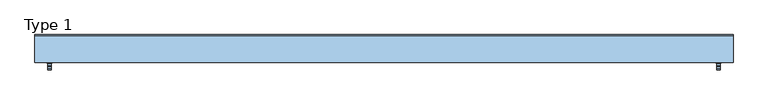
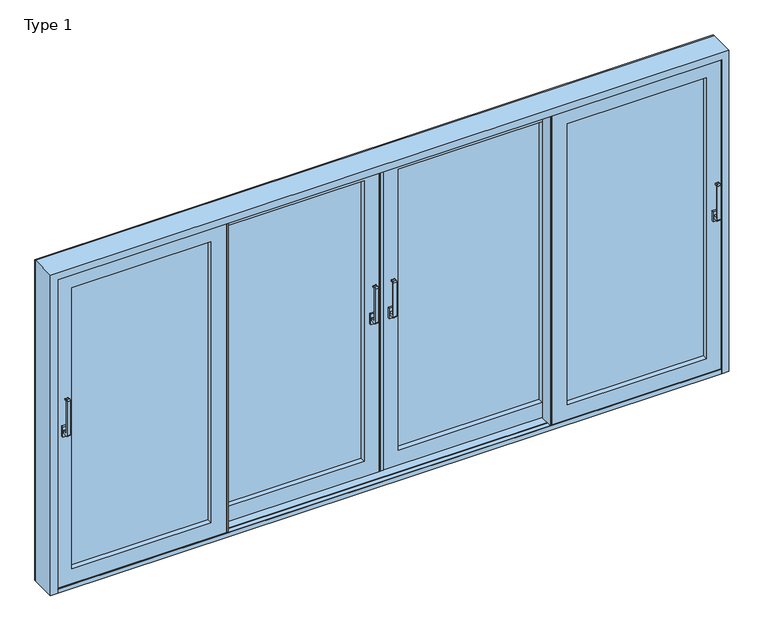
"""IFC4 building model written with IfcOpenShell, lengths in millimetres: window geometry, ETEM_ES70_Quadruple_Lift_Sliding_FR : Type 1."""

from ifc_helpers import new_model, si_unit, point, frame, frame_2d, origin, place, context, project, spatial, polyline, circle_curve, trimmed, segment, composite_curve, outline, extrude, faceted_brep, source, transform, mapped, element, save


def type_1_2b06f44e(model_context):
    return source(origin(), model_context, "Body", "SolidModel", [
        extrude(outline(composite_curve([segment(polyline([(-51.4992454, 1090.0), (-83.0729301, 1090.0)]), True, "CONTINUOUS"), segment(trimmed(circle_curve(frame_2d((-83.0729301, 1098.4263152)), 8.4263152), [point((-83.0729301, 1090.0))], [point((-91.4992454, 1098.4263152))], False, "CARTESIAN"), True, "CONTINUOUS"), segment(polyline([(-91.4992454, 1098.4263152), (-91.4992454, 1331.5736848)]), True, "CONTINUOUS"), segment(trimmed(circle_curve(frame_2d((-83.0729301, 1331.5736848)), 8.4263152), [point((-91.4992454, 1331.5736848))], [point((-83.0729301, 1340.0))], False, "CARTESIAN"), True, "CONTINUOUS"), segment(polyline([(-83.0729301, 1340.0), (-71.4992454, 1340.0)]), True, "CONTINUOUS"), segment(trimmed(circle_curve(frame_2d((-71.4992454, 1335.0)), 5.0), [point((-71.4992454, 1340.0))], [point((-71.4992454, 1330.0))], False, "CARTESIAN"), True, "CONTINUOUS"), segment(polyline([(-71.4992454, 1330.0), (-77.9637115, 1330.0)]), True, "CONTINUOUS"), segment(trimmed(circle_curve(frame_2d((-77.9637115, 1326.4644661)), 3.5355339), [point((-77.9637115, 1330.0))], [point((-81.4992454, 1326.4644661))], True, "CARTESIAN"), True, "CONTINUOUS"), segment(polyline([(-81.4992454, 1326.4644661), (-81.4992454, 1113.5355339)]), True, "CONTINUOUS"), segment(trimmed(circle_curve(frame_2d((-77.9637115, 1113.5355339)), 3.5355339), [point((-81.4992454, 1113.5355339))], [point((-77.9637115, 1110.0))], True, "CARTESIAN"), True, "CONTINUOUS"), segment(polyline([(-77.9637115, 1110.0), (-51.4992454, 1110.0), (-51.4992454, 1090.0)]), True, "CONTINUOUS")], self_intersect=False)), frame((2098.5, 0.0, 0.0), z_axis=(1.0, 0.0, 0.0), x_axis=(0.0, 1.0, 0.0)), (0.0, 0.0, 1.0), 20.0),
        extrude(outline(polyline([(2093.5, -51.4992454), (2093.5, -38.4992454), (2123.5, -38.4992454), (2123.5, -51.4992454), (2093.5, -51.4992454)])), frame((0.0, 0.0, 1065.0), z_axis=(0.0, 0.0, 1.0), x_axis=(1.0, 0.0, 0.0)), (0.0, 0.0, 1.0), 70.0),
        extrude(outline(composite_curve([segment(polyline([(-51.4992454, 1090.0), (-83.0729301, 1090.0)]), True, "CONTINUOUS"), segment(trimmed(circle_curve(frame_2d((-83.0729301, 1098.4263152)), 8.4263152), [point((-83.0729301, 1090.0))], [point((-91.4992454, 1098.4263152))], False, "CARTESIAN"), True, "CONTINUOUS"), segment(polyline([(-91.4992454, 1098.4263152), (-91.4992454, 1331.5736848)]), True, "CONTINUOUS"), segment(trimmed(circle_curve(frame_2d((-83.0729301, 1331.5736848)), 8.4263152), [point((-91.4992454, 1331.5736848))], [point((-83.0729301, 1340.0))], False, "CARTESIAN"), True, "CONTINUOUS"), segment(polyline([(-83.0729301, 1340.0), (-71.4992454, 1340.0)]), True, "CONTINUOUS"), segment(trimmed(circle_curve(frame_2d((-71.4992454, 1335.0)), 5.0), [point((-71.4992454, 1340.0))], [point((-71.4992454, 1330.0))], False, "CARTESIAN"), True, "CONTINUOUS"), segment(polyline([(-71.4992454, 1330.0), (-77.9637115, 1330.0)]), True, "CONTINUOUS"), segment(trimmed(circle_curve(frame_2d((-77.9637115, 1326.4644661)), 3.5355339), [point((-77.9637115, 1330.0))], [point((-81.4992454, 1326.4644661))], True, "CARTESIAN"), True, "CONTINUOUS"), segment(polyline([(-81.4992454, 1326.4644661), (-81.4992454, 1113.5355339)]), True, "CONTINUOUS"), segment(trimmed(circle_curve(frame_2d((-77.9637115, 1113.5355339)), 3.5355339), [point((-81.4992454, 1113.5355339))], [point((-77.9637115, 1110.0))], True, "CARTESIAN"), True, "CONTINUOUS"), segment(polyline([(-77.9637115, 1110.0), (-51.4992454, 1110.0), (-51.4992454, 1090.0)]), True, "CONTINUOUS")], self_intersect=False)), frame((-2118.5, 0.0, 0.0), z_axis=(1.0, 0.0, 0.0), x_axis=(0.0, 1.0, 0.0)), (0.0, 0.0, 1.0), 20.0),
        extrude(outline(polyline([(-2123.5, -51.4992454), (-2123.5, -38.4992454), (-2093.5, -38.4992454), (-2093.5, -51.4992454), (-2123.5, -51.4992454)])), frame((0.0, 0.0, 1065.0), z_axis=(0.0, 0.0, 1.0), x_axis=(1.0, 0.0, 0.0)), (0.0, 0.0, 1.0), 70.0),
        extrude(outline(composite_curve([segment(polyline([(38.5, 1090.0), (6.9263152, 1090.0)]), True, "CONTINUOUS"), segment(trimmed(circle_curve(frame_2d((6.9263152, 1098.4263152)), 8.4263152), [point((6.9263152, 1090.0))], [point((-1.5, 1098.4263152))], False, "CARTESIAN"), True, "CONTINUOUS"), segment(polyline([(-1.5, 1098.4263152), (-1.5, 1331.5736848)]), True, "CONTINUOUS"), segment(trimmed(circle_curve(frame_2d((6.9263152, 1331.5736848)), 8.4263152), [point((-1.5, 1331.5736848))], [point((6.9263152, 1340.0))], False, "CARTESIAN"), True, "CONTINUOUS"), segment(polyline([(6.9263152, 1340.0), (18.5, 1340.0)]), True, "CONTINUOUS"), segment(trimmed(circle_curve(frame_2d((18.5, 1335.0)), 5.0), [point((18.5, 1340.0))], [point((18.5, 1330.0))], False, "CARTESIAN"), True, "CONTINUOUS"), segment(polyline([(18.5, 1330.0), (12.0355339, 1330.0)]), True, "CONTINUOUS"), segment(trimmed(circle_curve(frame_2d((12.0355339, 1326.4644661)), 3.5355339), [point((12.0355339, 1330.0))], [point((8.5, 1326.4644661))], True, "CARTESIAN"), True, "CONTINUOUS"), segment(polyline([(8.5, 1326.4644661), (8.5, 1113.5355339)]), True, "CONTINUOUS"), segment(trimmed(circle_curve(frame_2d((12.0355339, 1113.5355339)), 3.5355339), [point((8.5, 1113.5355339))], [point((12.0355339, 1110.0))], True, "CARTESIAN"), True, "CONTINUOUS"), segment(polyline([(12.0355339, 1110.0), (38.5, 1110.0), (38.5, 1090.0)]), True, "CONTINUOUS")], self_intersect=False)), frame((-69.4936823, 0.0, 0.0), z_axis=(1.0, 0.0, 0.0), x_axis=(0.0, 1.0, 0.0)), (0.0, 0.0, 1.0), 20.0),
        extrude(outline(polyline([(-74.4936823, 38.5), (-74.4936823, 51.5), (-44.4936823, 51.5), (-44.4936823, 38.5), (-74.4936823, 38.5)])), frame((0.0, 0.0, 1065.0), z_axis=(0.0, 0.0, 1.0), x_axis=(1.0, 0.0, 0.0)), (0.0, 0.0, 1.0), 70.0),
        extrude(outline(composite_curve([segment(polyline([(38.5, 1090.0), (6.9263152, 1090.0)]), True, "CONTINUOUS"), segment(trimmed(circle_curve(frame_2d((6.9263152, 1098.4263152)), 8.4263152), [point((6.9263152, 1090.0))], [point((-1.5, 1098.4263152))], False, "CARTESIAN"), True, "CONTINUOUS"), segment(polyline([(-1.5, 1098.4263152), (-1.5, 1331.5736848)]), True, "CONTINUOUS"), segment(trimmed(circle_curve(frame_2d((6.9263152, 1331.5736848)), 8.4263152), [point((-1.5, 1331.5736848))], [point((6.9263152, 1340.0))], False, "CARTESIAN"), True, "CONTINUOUS"), segment(polyline([(6.9263152, 1340.0), (18.5, 1340.0)]), True, "CONTINUOUS"), segment(trimmed(circle_curve(frame_2d((18.5, 1335.0)), 5.0), [point((18.5, 1340.0))], [point((18.5, 1330.0))], False, "CARTESIAN"), True, "CONTINUOUS"), segment(polyline([(18.5, 1330.0), (12.0355339, 1330.0)]), True, "CONTINUOUS"), segment(trimmed(circle_curve(frame_2d((12.0355339, 1326.4644661)), 3.5355339), [point((12.0355339, 1330.0))], [point((8.5, 1326.4644661))], True, "CARTESIAN"), True, "CONTINUOUS"), segment(polyline([(8.5, 1326.4644661), (8.5, 1113.5355339)]), True, "CONTINUOUS"), segment(trimmed(circle_curve(frame_2d((12.0355339, 1113.5355339)), 3.5355339), [point((8.5, 1113.5355339))], [point((12.0355339, 1110.0))], True, "CARTESIAN"), True, "CONTINUOUS"), segment(polyline([(12.0355339, 1110.0), (38.5, 1110.0), (38.5, 1090.0)]), True, "CONTINUOUS")], self_intersect=False)), frame((49.4931787, 0.0, 0.0), z_axis=(1.0, 0.0, 0.0), x_axis=(0.0, 1.0, 0.0)), (0.0, 0.0, 1.0), 20.0),
        extrude(outline(polyline([(74.4931787, 38.5), (44.4931787, 38.5), (44.4931787, 51.5), (74.4931787, 51.5), (74.4931787, 38.5)])), frame((0.0, 0.0, 1065.0), z_axis=(0.0, 0.0, 1.0), x_axis=(1.0, 0.0, 0.0)), (0.0, 0.0, 1.0), 70.0),
        faceted_brep([(2200.0, -45.1, 2200.0), (2200.0, -45.1, 0.0), (2200.0, 122.9, 0.0), (2200.0, 122.9, 2200.0), (2183.7, 91.0, 2183.7), (2183.7, 122.9, 2183.7), (2183.7, 122.9, 0.0), (2183.7, 91.0, 0.0), (2160.0, 105.0, 2160.0), (2160.0, 91.0, 2160.0), (2160.0, 91.0, 0.0), (2160.0, 105.0, 0.0), (2152.0, 82.0, 2152.0), (2152.0, 105.0, 2152.0), (2152.0, 105.0, 0.0), (2152.0, 82.0, 0.0), (2183.7, 1.0, 2183.7), (2183.7, 82.0, 2183.7), (2183.7, 82.0, 0.0), (2183.7, 1.0, 0.0), (2152.0, -22.0, 2152.0), (2152.0, 1.0, 2152.0), (2152.0, 1.0, 0.0), (2152.0, -22.0, 0.0), (2160.0, -8.0, 2160.0), (2160.0, -22.0, 2160.0), (2160.0, -22.0, 0.0), (2160.0, -8.0, 0.0), (2183.7, -41.3, 2183.7), (2183.7, -8.0, 2183.7), (2183.7, -8.0, 0.0), (2183.7, -41.3, 0.0), (2152.0, -45.1, 2152.0), (2152.0, -41.3, 2152.0), (2152.0, -41.3, 0.0), (2152.0, -45.1, 0.0), (-2200.0, -45.1, 0.0), (-2200.0, -45.1, 2200.0), (-2200.0, 122.9, 2200.0), (-2200.0, 122.9, 0.0), (-2183.7, 91.0, 0.0), (-2183.7, 122.9, 0.0), (-2183.7, 122.9, 2183.7), (-2183.7, 91.0, 2183.7), (-2160.0, 105.0, 0.0), (-2160.0, 91.0, 0.0), (-2160.0, 91.0, 2160.0), (-2160.0, 105.0, 2160.0), (-2152.0, 82.0, 0.0), (-2152.0, 105.0, 0.0), (-2152.0, 105.0, 2152.0), (-2152.0, 82.0, 2152.0), (-2183.7, 1.0, 0.0), (-2183.7, 82.0, 0.0), (-2183.7, 82.0, 2183.7), (-2183.7, 1.0, 2183.7), (-2152.0, -22.0, 0.0), (-2152.0, 1.0, 0.0), (-2152.0, 1.0, 2152.0), (-2152.0, -22.0, 2152.0), (-2160.0, -8.0, 0.0), (-2160.0, -22.0, 0.0), (-2160.0, -22.0, 2160.0), (-2160.0, -8.0, 2160.0), (-2183.7, -41.3, 0.0), (-2183.7, -8.0, 0.0), (-2183.7, -8.0, 2183.7), (-2183.7, -41.3, 2183.7), (-2152.0, -45.1, 0.0), (-2152.0, -41.3, 0.0), (-2152.0, -41.3, 2152.0), (-2152.0, -45.1, 2152.0)], [[[0, 1, 2, 3]], [[4, 5, 6, 7]], [[8, 9, 10, 11]], [[12, 13, 14, 15]], [[16, 17, 18, 19]], [[20, 21, 22, 23]], [[24, 25, 26, 27]], [[28, 29, 30, 31]], [[32, 33, 34, 35]], [[36, 37, 38, 39]], [[40, 41, 42, 43]], [[44, 45, 46, 47]], [[48, 49, 50, 51]], [[52, 53, 54, 55]], [[56, 57, 58, 59]], [[60, 61, 62, 63]], [[64, 65, 66, 67]], [[68, 69, 70, 71]], [[38, 37, 0, 3]], [[43, 42, 5, 4]], [[47, 46, 9, 8]], [[51, 50, 13, 12]], [[55, 54, 17, 16]], [[59, 58, 21, 20]], [[63, 62, 25, 24]], [[67, 66, 29, 28]], [[71, 70, 33, 32]], [[36, 39, 41, 40, 45, 44, 49, 48, 53, 52, 57, 56, 61, 60, 65, 64, 69, 68]], [[41, 39, 38, 3, 2, 6, 5, 42]], [[45, 40, 43, 4, 7, 10, 9, 46]], [[49, 44, 47, 8, 11, 14, 13, 50]], [[53, 48, 51, 12, 15, 18, 17, 54]], [[57, 52, 55, 16, 19, 22, 21, 58]], [[61, 56, 59, 20, 23, 26, 25, 62]], [[65, 60, 63, 24, 27, 30, 29, 66]], [[69, 64, 67, 28, 31, 34, 33, 70]], [[36, 68, 71, 32, 35, 1, 0, 37]], [[2, 1, 35, 34, 31, 30, 27, 26, 23, 22, 19, 18, 15, 14, 11, 10, 7, 6]]]),
        faceted_brep([(1146.5, 63.9, 2161.0), (1146.5, 51.5, 2161.0), (1146.5, 51.5, 30.0), (1146.5, 63.9, 30.0), (7.0252518, 51.5, 2161.0), (7.0252518, 51.5, 30.0), (1043.5, 51.5, 133.0), (110.0252518, 51.5, 133.0), (110.0252518, 51.5, 2058.0), (1043.5, 51.5, 2058.0), (7.0252518, 63.9, 30.0), (7.0252518, 63.9, 2161.0), (1115.4, 63.9, 2129.9), (38.1252518, 63.9, 2129.9), (38.1252518, 63.9, 61.1), (1115.4, 63.9, 61.1), (1115.4, 109.1, 2129.9), (1115.4, 109.1, 61.1), (38.1252518, 109.1, 61.1), (1146.5, 109.1, 2161.0), (7.0252518, 109.1, 2161.0), (7.0252518, 109.1, 30.0), (1146.5, 109.1, 30.0), (38.1252518, 109.1, 2129.9), (1146.5, 121.5, 2161.0), (1146.5, 121.5, 30.0), (7.0252518, 121.5, 30.0), (7.0252518, 121.5, 2161.0), (1043.5, 121.5, 2058.0), (110.0252518, 121.5, 2058.0), (110.0252518, 121.5, 133.0), (1043.5, 121.5, 133.0)], [[[0, 1, 2, 3]], [[1, 4, 5, 2], [6, 7, 8, 9]], [[3, 2, 5, 10]], [[3, 10, 11, 0], [12, 13, 14, 15]], [[16, 12, 15, 17]], [[17, 15, 14, 18]], [[19, 20, 21, 22], [17, 18, 23, 16]], [[24, 19, 22, 25]], [[25, 22, 21, 26]], [[25, 26, 27, 24], [28, 29, 30, 31]], [[9, 28, 31, 6]], [[6, 31, 30, 7]], [[10, 5, 4, 11]], [[18, 14, 13, 23]], [[26, 21, 20, 27]], [[7, 30, 29, 8]], [[11, 4, 1, 0]], [[23, 13, 12, 16]], [[27, 20, 19, 24]], [[8, 29, 28, 9]]]),
        extrude(outline(polyline([(1156.5, 39.7), (1146.5, 39.7), (1146.5, 121.5), (1156.5, 121.5), (1156.5, 39.7)])), frame((0.0, 0.0, 30.0), z_axis=(0.0, 0.0, 1.0), x_axis=(1.0, 0.0, 0.0)), (0.0, 0.0, 1.0), 2131.0),
        extrude(outline(polyline([(1043.5, 43.3007546), (1053.5, 43.3007546), (1053.5, -38.4992454), (1043.5, -38.4992454), (1043.5, 43.3007546)])), frame((0.0, 0.0, 30.0), z_axis=(0.0, 0.0, 1.0), x_axis=(1.0, 0.0, 0.0)), (0.0, 0.0, 1.0), 2131.0),
        extrude(outline(polyline([(109.9252518, 113.5022684), (1043.55, 113.5022684), (1043.55, 107.5022684), (109.9252518, 107.5022684), (109.9252518, 113.5022684)])), frame((0.0, 0.0, 133.0), z_axis=(0.0, 0.0, 1.0), x_axis=(1.0, 0.0, 0.0)), (0.0, 0.0, 1.0), 1925.0),
        extrude(outline(polyline([(1156.5, 23.5007591), (2058.0, 23.5007591), (2058.0, 17.5007591), (1156.5, 17.5007591), (1156.5, 23.5007591)])), frame((0.0, 0.0, 133.0), z_axis=(0.0, 0.0, 1.0), x_axis=(1.0, 0.0, 0.0)), (0.0, 0.0, 1.0), 1925.0),
        extrude(outline(polyline([(109.9252518, 91.5022684), (1043.55, 91.5022684), (1043.55, 85.5022684), (109.9252518, 85.5022684), (109.9252518, 91.5022684)])), frame((0.0, 0.0, 133.0), z_axis=(0.0, 0.0, 1.0), x_axis=(1.0, 0.0, 0.0)), (0.0, 0.0, 1.0), 1925.0),
        extrude(outline(polyline([(1156.5, 1.5007591), (2058.0, 1.5007591), (2058.0, -4.4992409), (1156.5, -4.4992409), (1156.5, 1.5007591)])), frame((0.0, 0.0, 133.0), z_axis=(0.0, 0.0, 1.0), x_axis=(1.0, 0.0, 0.0)), (0.0, 0.0, 1.0), 1925.0),
        faceted_brep([(-7.0252518, 63.9, 2161.0), (-7.0252518, 51.5, 2161.0), (-7.0252518, 51.5, 30.0), (-7.0252518, 63.9, 30.0), (-1146.5, 51.5, 2161.0), (-1146.5, 51.5, 30.0), (-110.0252518, 51.5, 133.0), (-1043.5, 51.5, 133.0), (-1043.5, 51.5, 2058.0), (-110.0252518, 51.5, 2058.0), (-1146.5, 63.9, 30.0), (-1146.5, 63.9, 2161.0), (-38.1252518, 63.9, 2129.9), (-1115.4, 63.9, 2129.9), (-1115.4, 63.9, 61.1), (-38.1252518, 63.9, 61.1), (-38.1252518, 109.1, 2129.9), (-38.1252518, 109.1, 61.1), (-1115.4, 109.1, 61.1), (-7.0252518, 109.1, 2161.0), (-1146.5, 109.1, 2161.0), (-1146.5, 109.1, 30.0), (-7.0252518, 109.1, 30.0), (-1115.4, 109.1, 2129.9), (-7.0252518, 121.5, 2161.0), (-7.0252518, 121.5, 30.0), (-1146.5, 121.5, 30.0), (-1146.5, 121.5, 2161.0), (-110.0252518, 121.5, 2058.0), (-1043.5, 121.5, 2058.0), (-1043.5, 121.5, 133.0), (-110.0252518, 121.5, 133.0)], [[[0, 1, 2, 3]], [[1, 4, 5, 2], [6, 7, 8, 9]], [[3, 2, 5, 10]], [[3, 10, 11, 0], [12, 13, 14, 15]], [[16, 12, 15, 17]], [[17, 15, 14, 18]], [[19, 20, 21, 22], [17, 18, 23, 16]], [[24, 19, 22, 25]], [[25, 22, 21, 26]], [[25, 26, 27, 24], [28, 29, 30, 31]], [[9, 28, 31, 6]], [[6, 31, 30, 7]], [[10, 5, 4, 11]], [[18, 14, 13, 23]], [[26, 21, 20, 27]], [[7, 30, 29, 8]], [[11, 4, 1, 0]], [[23, 13, 12, 16]], [[27, 20, 19, 24]], [[8, 29, 28, 9]]]),
        extrude(outline(polyline([(-1043.55, 113.5022684), (-109.9252518, 113.5022684), (-109.9252518, 107.5022684), (-1043.55, 107.5022684), (-1043.55, 113.5022684)])), frame((0.0, 0.0, 133.0), z_axis=(0.0, 0.0, 1.0), x_axis=(1.0, 0.0, 0.0)), (0.0, 0.0, 1.0), 1925.0),
        extrude(outline(polyline([(-1043.55, 91.5022684), (-109.9252518, 91.5022684), (-109.9252518, 85.5022684), (-1043.55, 85.5022684), (-1043.55, 91.5022684)])), frame((0.0, 0.0, 133.0), z_axis=(0.0, 0.0, 1.0), x_axis=(1.0, 0.0, 0.0)), (0.0, 0.0, 1.0), 1925.0),
        faceted_brep([(-1053.5, -26.0992454, 2161.0), (-1053.5, -38.4992454, 2161.0), (-1053.5, -38.4992454, 30.0), (-1053.5, -26.0992454, 30.0), (-2161.0, -38.4992454, 30.0), (-2161.0, -26.0992454, 30.0), (-2161.0, -38.4992454, 2161.0), (-2058.0250001, -38.4992454, 132.9749999), (-2058.0250001, -38.4992454, 2058.0250001), (-1156.4749999, -38.4992454, 2058.0250001), (-1156.4749999, -38.4992454, 132.9749999), (-2161.0, -26.0992454, 2161.0), (-1084.5749999, -26.0992454, 61.0749999), (-1084.5749999, -26.0992454, 2129.9250001), (-2129.9250001, -26.0992454, 2129.9250001), (-2129.9250001, -26.0992454, 61.0749999), (-1084.5749999, 19.1007546, 2129.9250001), (-1084.5749999, 19.1007546, 61.0749999), (-2129.9250001, 19.1007546, 61.0749999), (-2129.9250001, 19.1007546, 2129.9250001), (-1053.5, 19.1007546, 30.0), (-1053.5, 19.1007546, 2161.0), (-2161.0, 19.1007546, 2161.0), (-2161.0, 19.1007546, 30.0), (-1053.5, 31.5007546, 2161.0), (-1053.5, 31.5007546, 30.0), (-2161.0, 31.5007546, 30.0), (-2161.0, 31.5007546, 2161.0), (-1156.4749999, 31.5007546, 132.9749999), (-1156.4749999, 31.5007546, 2058.0250001), (-2058.0250001, 31.5007546, 2058.0250001), (-2058.0250001, 31.5007546, 132.9749999)], [[[0, 1, 2, 3]], [[3, 2, 4, 5]], [[2, 1, 6, 4], [7, 8, 9, 10]], [[5, 4, 6, 11]], [[5, 11, 0, 3], [12, 13, 14, 15]], [[16, 13, 12, 17]], [[17, 12, 15, 18]], [[18, 15, 14, 19]], [[20, 21, 22, 23], [18, 19, 16, 17]], [[24, 21, 20, 25]], [[25, 20, 23, 26]], [[26, 23, 22, 27]], [[26, 27, 24, 25], [28, 29, 30, 31]], [[9, 29, 28, 10]], [[10, 28, 31, 7]], [[7, 31, 30, 8]], [[11, 6, 1, 0]], [[19, 14, 13, 16]], [[27, 22, 21, 24]], [[8, 30, 29, 9]]]),
        extrude(outline(polyline([(-1043.5, 43.3007546), (-1043.5, -38.4992454), (-1053.5, -38.4992454), (-1053.5, 43.3007546), (-1043.5, 43.3007546)])), frame((0.0, 0.0, 30.0), z_axis=(0.0, 0.0, 1.0), x_axis=(1.0, 0.0, 0.0)), (0.0, 0.0, 1.0), 2131.0),
        extrude(outline(polyline([(-1156.45, 39.7), (-1156.45, 121.5), (-1146.55, 121.5), (-1146.55, 39.7), (-1156.45, 39.7)])), frame((0.0, 0.0, 30.0), z_axis=(0.0, 0.0, 1.0), x_axis=(1.0, 0.0, 0.0)), (0.0, 0.0, 1.0), 2131.0),
        extrude(outline(polyline([(-2058.0, 23.5007591), (-1156.5, 23.5007591), (-1156.5, 17.5007591), (-2058.0, 17.5007591), (-2058.0, 23.5007591)])), frame((0.0, 0.0, 132.9749999), z_axis=(0.0, 0.0, 1.0), x_axis=(1.0, 0.0, 0.0)), (0.0, 0.0, 1.0), 1925.0500002),
        extrude(outline(polyline([(-2058.0, 1.5007591), (-1156.5, 1.5007591), (-1156.5, -4.4992409), (-2058.0, -4.4992409), (-2058.0, 1.5007591)])), frame((0.0, 0.0, 132.9749999), z_axis=(0.0, 0.0, 1.0), x_axis=(1.0, 0.0, 0.0)), (0.0, 0.0, 1.0), 1925.0500002),
        extrude(outline(polyline([(7.0252518, 67.9992454), (7.0252518, 51.5), (12.3472419, 51.5), (12.3472419, 49.7022316), (-12.6492101, 49.7022316), (-12.6492101, 51.5), (-7.0252518, 51.5), (-7.0252518, 121.5), (-12.6492101, 121.5), (-12.6492101, 123.2992777), (12.3472419, 123.2992777), (12.3472419, 121.5), (7.0252518, 121.5), (7.0252518, 105.0007546), (16.0497482, 105.0007546), (16.0497482, 67.9992454), (7.0252518, 67.9992454)])), frame((0.0, 0.0, 30.0), z_axis=(0.0, 0.0, 1.0), x_axis=(1.0, 0.0, 0.0)), (0.0, 0.0, 1.0), 2130.9811707),
        extrude(outline(polyline([(0.0, -2200.0), (0.0, -2152.0), (2152.0, -2152.0), (2152.0, 2152.0), (0.0, 2152.0), (0.0, 2200.0), (2200.0, 2200.0), (2200.0, -2200.0), (0.0, -2200.0)])), frame((0.0, 122.9, 0.0), z_axis=(0.0, 1.0, 0.0), x_axis=(0.0, 0.0, 1.0)), (0.0, 0.0, 1.0), 7.1),
        faceted_brep([(2161.0, -26.0992454, 2161.0), (2161.0, -38.4992454, 2161.0), (2161.0, -38.4992454, 30.0), (2161.0, -26.0992454, 30.0), (1053.5, -38.4992454, 30.0), (1053.5, -26.0992454, 30.0), (1053.5, -38.4992454, 2161.0), (1156.5, -38.4992454, 133.0), (1156.5, -38.4992454, 2058.0), (2058.0, -38.4992454, 2058.0), (2058.0, -38.4992454, 133.0), (1053.5, -26.0992454, 2161.0), (2129.9250001, -26.0992454, 61.0749999), (2129.9250001, -26.0992454, 2129.9250001), (1084.5749999, -26.0992454, 2129.9250001), (1084.5749999, -26.0992454, 61.0749999), (2129.9250001, 19.1007546, 2129.9250001), (2129.9250001, 19.1007546, 61.0749999), (1084.5749999, 19.1007546, 61.0749999), (1084.5749999, 19.1007546, 2129.9250001), (2161.0, 19.1007546, 30.0), (2161.0, 19.1007546, 2161.0), (1053.5, 19.1007546, 2161.0), (1053.5, 19.1007546, 30.0), (2161.0, 31.5007546, 2161.0), (2161.0, 31.5007546, 30.0), (1053.5, 31.5007546, 30.0), (1053.5, 31.5007546, 2161.0), (2058.0, 31.5007546, 133.0), (2058.0, 31.5007546, 2058.0), (1156.5, 31.5007546, 2058.0), (1156.5, 31.5007546, 133.0)], [[[0, 1, 2, 3]], [[3, 2, 4, 5]], [[2, 1, 6, 4], [7, 8, 9, 10]], [[5, 4, 6, 11]], [[5, 11, 0, 3], [12, 13, 14, 15]], [[16, 13, 12, 17]], [[17, 12, 15, 18]], [[18, 15, 14, 19]], [[20, 21, 22, 23], [18, 19, 16, 17]], [[24, 21, 20, 25]], [[25, 20, 23, 26]], [[26, 23, 22, 27]], [[26, 27, 24, 25], [28, 29, 30, 31]], [[9, 29, 28, 10]], [[10, 28, 31, 7]], [[7, 31, 30, 8]], [[11, 6, 1, 0]], [[19, 14, 13, 16]], [[27, 22, 21, 24]], [[8, 30, 29, 9]]]),
        faceted_brep([(-2152.0, -45.1056823, 0.0), (2152.0, -45.1056823, 0.0), (2152.0, -45.1056823, 30.0), (-2152.0, -45.1056823, 30.0), (2152.0, -41.3061158, 30.0), (-2152.0, -41.3061158, 30.0), (2152.0, -41.3061158, 25.0), (-2152.0, -41.3061158, 25.0), (2183.7, -41.3, 25.0), (2183.7, -8.0, 25.0), (2160.0, -8.0, 25.0), (2160.0, -22.0, 25.0), (2152.0, -22.0, 25.0), (2152.0, -5.9113646, 25.0), (-2152.0, -5.9113646, 25.0), (-2152.0, -22.0, 25.0), (-2160.0, -22.0, 25.0), (-2160.0, -8.0, 25.0), (-2183.7, -8.0, 25.0), (-2183.7, -41.3061158, 25.0), (2152.0, -5.9113646, 21.0), (-2152.0, -5.9113646, 21.0), (2152.0, -1.1113646, 21.0), (-2152.0, -1.1113646, 21.0), (2152.0, -1.1113646, 25.0), (-2152.0, -1.1113646, 25.0), (2152.0, 1.0, 25.0), (2183.7, 1.0, 25.0), (2183.7, 82.0, 25.0), (2152.0, 82.0, 25.0), (2152.0, 84.0886354, 25.0), (-2152.0, 84.0886354, 25.0), (-2152.0, 82.0, 25.0), (-2183.7, 82.0, 25.0), (-2183.7, 1.0, 25.0), (-2152.0, 1.0, 25.0), (2152.0, 84.0886354, 21.0), (-2152.0, 84.0886354, 21.0), (2152.0, 88.8886354, 21.0), (-2152.0, 88.8886354, 21.0), (2152.0, 88.8886354, 25.0), (-2152.0, 88.8886354, 25.0), (2152.0, 105.0, 25.0), (2160.0, 105.0, 25.0), (2160.0, 91.0, 25.0), (2183.7, 91.0, 25.0), (2183.7, 121.8886354, 25.0), (-2183.7, 121.8886354, 25.0), (-2183.7, 91.0, 25.0), (-2160.0, 91.0, 25.0), (-2160.0, 105.0, 25.0), (-2152.0, 105.0, 25.0), (2183.7, 121.8886354, 0.0), (-2183.7, 121.8886354, 0.0), (-2152.0, -41.3, 0.0), (-2183.7, -41.3, 0.0), (-2183.7, -8.0, 0.0), (-2160.0, -8.0, 0.0), (-2160.0, -22.0, 0.0), (-2152.0, -22.0, 0.0), (-2152.0, 1.0, 0.0), (-2183.7, 1.0, 0.0), (-2183.7, 82.0, 0.0), (-2152.0, 82.0, 0.0), (-2152.0, 105.0, 0.0), (-2160.0, 105.0, 0.0), (-2160.0, 91.0, 0.0), (-2183.7, 91.0, 0.0), (2183.7, 91.0, 0.0), (2160.0, 91.0, 0.0), (2160.0, 105.0, 0.0), (2152.0, 105.0, 0.0), (2152.0, 82.0, 0.0), (2183.7, 82.0, 0.0), (2183.7, 1.0, 0.0), (2152.0, 1.0, 0.0), (2152.0, -22.0, 0.0), (2160.0, -22.0, 0.0), (2160.0, -8.0, 0.0), (2183.7, -8.0, 0.0), (2183.7, -41.3, 0.0), (2152.0, -41.3, 0.0)], [[[0, 1, 2, 3]], [[3, 2, 4, 5]], [[5, 4, 6, 7]], [[7, 6, 8, 9, 10, 11, 12, 13, 14, 15, 16, 17, 18, 19]], [[14, 13, 20, 21]], [[21, 20, 22, 23]], [[23, 22, 24, 25]], [[25, 24, 26, 27, 28, 29, 30, 31, 32, 33, 34, 35]], [[31, 30, 36, 37]], [[37, 36, 38, 39]], [[39, 38, 40, 41]], [[41, 40, 42, 43, 44, 45, 46, 47, 48, 49, 50, 51]], [[47, 46, 52, 53]], [[1, 0, 54, 55, 56, 57, 58, 59, 60, 61, 62, 63, 64, 65, 66, 67, 53, 52, 68, 69, 70, 71, 72, 73, 74, 75, 76, 77, 78, 79, 80, 81]], [[7, 54, 0, 3, 5]], [[54, 7, 19, 55]], [[55, 19, 18, 56]], [[56, 18, 17, 57]], [[57, 17, 16, 58]], [[58, 16, 15, 59]], [[59, 15, 14, 21, 23, 25, 35, 60]], [[60, 35, 34, 61]], [[61, 34, 33, 62]], [[62, 33, 32, 63]], [[63, 32, 31, 37, 39, 41, 51, 64]], [[64, 51, 50, 65]], [[65, 50, 49, 66]], [[66, 49, 48, 67]], [[67, 48, 47, 53]], [[45, 68, 52, 46]], [[68, 45, 44, 69]], [[69, 44, 43, 70]], [[70, 43, 42, 71]], [[71, 42, 40, 38, 36, 30, 29, 72]], [[72, 29, 28, 73]], [[73, 28, 27, 74]], [[74, 27, 26, 75]], [[75, 26, 24, 22, 20, 13, 12, 76]], [[76, 12, 11, 77]], [[77, 11, 10, 78]], [[78, 10, 9, 79]], [[8, 80, 79, 9]], [[80, 8, 6, 81]], [[81, 6, 4, 2, 1]]]),
    ])


if __name__ == "__main__":
    model = new_model("IFC4")
    model_context = context("Model", 3, world=origin())
    ifc_project = project(units=[si_unit("LENGTHUNIT", "METRE", prefix="MILLI")], contexts=[model_context])
    site = spatial("IfcSite", under=ifc_project)
    building = spatial("IfcBuilding", under=site)
    placement = place(None, origin())
    type_1_shape = type_1_2b06f44e(model_context)
    element("IfcWindow", 1, ObjectType="ETEM_ES70_Quadruple_Lift_Sliding_FR : Type 1", at=placement, inside=building, context=model_context, shape_type="MappedRepresentation", body=[
        mapped(type_1_shape, transform((0.0, 0.0, 0.0), x_axis=(1.0, 0.0, 0.0), y_axis=(0.0, 1.0, 0.0), z_axis=(0.0, 0.0, 1.0))),
    ])
    save(model, "model.ifc")
